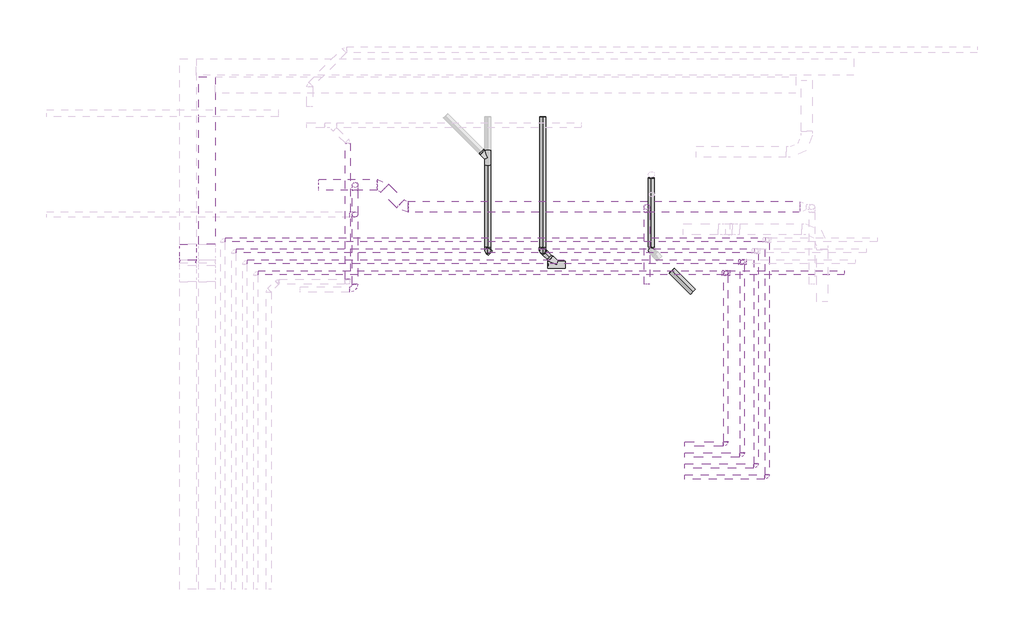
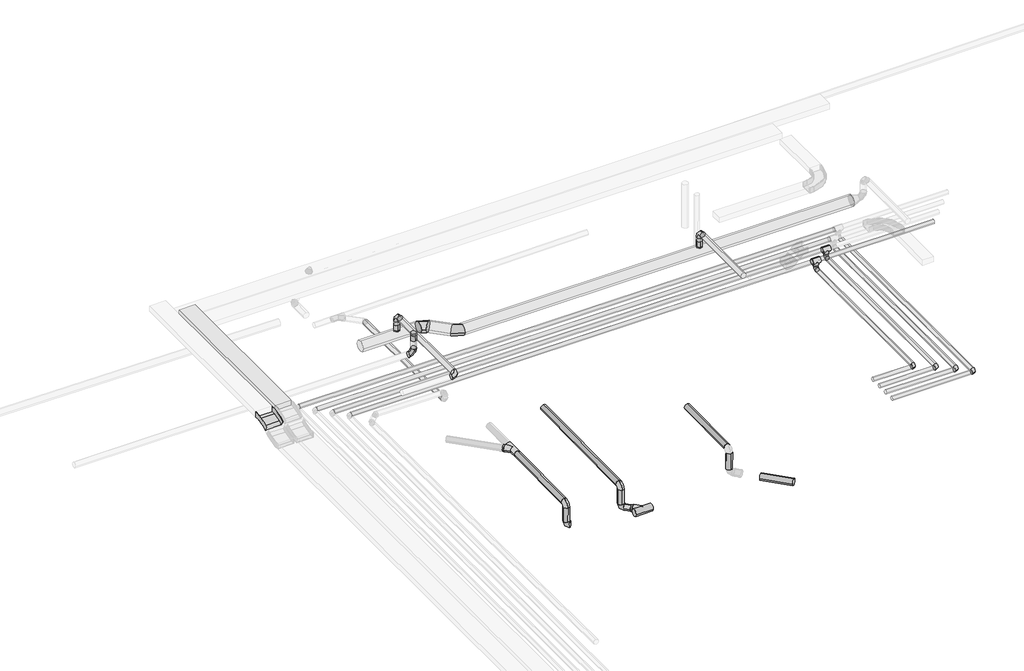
# One storey, part 4 of 5: 24 pipe segments, 16 pipe fittings, 9 duct fittings, 8 duct segments, 1 cable carrier fitting, 1 cable carrier segment.
"""IFC4 building model written with IfcOpenShell, lengths in millimetres."""

from ifc_helpers import new_model, si_unit, point, frame, frame_2d, origin, place, context, project, spatial, polyline, circle_curve, trimmed, segment, composite_curve, outline, extrude, transform, mapped, element, save
from components import m_codo_vertical_exterior_de_canal_el_c4dc7364, ext_600b08cb, ext_088e3dfa, ext_2c048923, m_codo_redondo_ext_1_d_85067ab4, m_codo_redondo_ext_1_d_d62552e0, pipe_fitting_3a68447e, pipe_fitting_37054e91, pipe_fitting_293e509b, pipe_fitting_2ef3bc07, pipe_fitting_64523cdd, pipe_fitting_2b84622b, pipe_fitting_de9ed0ee, pipe_fitting_65ddb89c, pipe_fitting_dc1c2671, t_soldadura_a_enchufe_ff252817

model = new_model("IFC4")

# Units and contexts
model_context = context("Model", 3, world=origin())
ifc_project = project(units=[si_unit("LENGTHUNIT", "METRE", prefix="MILLI")], contexts=[model_context])

# Site, building, storey
site = spatial("IfcSite", under=ifc_project)
building = spatial("IfcBuilding", under=site)
storey = spatial("IfcBuildingStorey", under=building, Name="Nivell 01 P01_PP", Elevation=11160.0)

# Cable carrier fitting
placement = place(None, origin())
m_codo_vertical_exterior_de_canal_el_shape = m_codo_vertical_exterior_de_canal_el_c4dc7364(model_context)
element("IfcCableCarrierFitting", 1, ObjectType="M_Codo vertical exterior de canal : EL", at=placement, inside=storey, context=model_context, shape_type="MappedRepresentation", body=[
    mapped(m_codo_vertical_exterior_de_canal_el_shape, transform((5008.2381883, 6149.6159499, 14460.0), x_axis=(0.0, -1.0, 0.0), y_axis=(0.0, 0.0, -1.0), z_axis=(1.0, 0.0, 0.0))),
])

# Cable carrier segment
element("IfcCableCarrierSegment", 2, ObjectType="EL", at=placement, inside=storey, context=model_context, shape_type="SweptSolid", body=[
    extrude(outline(polyline([(5207.0671065, 9356.732053), (5507.0671065, 9356.732053), (5507.0671065, 6318.3981673), (5207.0671065, 6318.3981673), (5207.0671065, 9356.732053)])), frame((0.0, 0.0, 14410.0), z_axis=(0.0, 0.0, 1.0), x_axis=(1.0, 0.0, 0.0)), (0.0, 0.0, 1.0), 100.0),
])

# Duct fittings
ext_shape = ext_600b08cb(model_context)
element("IfcDuctFitting", 3, ObjectType="M_Toma de derivación redonda : EXT", at=placement, inside=storey, context=model_context, shape_type="MappedRepresentation", body=[
    mapped(ext_shape, transform((13350.5896993, 6992.2199701, 14340.0), x_axis=(0.0, 0.0, 1.0), y_axis=(1.0, 0.0, 0.0), z_axis=(0.0, 1.0, 0.0))),
])
ext_2_shape = ext_088e3dfa(model_context)
element("IfcDuctFitting", 4, ObjectType="M_Toma de derivación redonda : EXT", at=placement, inside=storey, context=model_context, shape_type="MappedRepresentation", body=[
    mapped(ext_2_shape, transform((8050.5896993, 6856.5337216, 14560.0), x_axis=(0.0, 0.0, -1.0), y_axis=(0.0, -1.0, 0.0), z_axis=(-1.0, 0.0, 0.0))),
])
ext_3_shape = ext_2c048923(model_context)
element("IfcDuctFitting", 5, ObjectType="M_Toma de derivación redonda : EXT", at=placement, inside=storey, context=model_context, shape_type="MappedRepresentation", body=[
    mapped(ext_3_shape, transform((8050.5896993, 7392.2199701, 14340.0), x_axis=(0.0, 0.0, 1.0), y_axis=(1.0, 0.0, 0.0), z_axis=(0.0, 1.0, 0.0))),
])
m_codo_redondo_ext_1_d_shape = m_codo_redondo_ext_1_d_85067ab4(model_context)
element("IfcDuctFitting", 6, ObjectType="M_Codo redondo : EXT_1 D", at=placement, inside=storey, context=model_context, shape_type="MappedRepresentation", body=[
    mapped(m_codo_redondo_ext_1_d_shape, transform((8050.5896993, 5490.7319202, 14610.0), x_axis=(1.0, 0.0, 0.0), y_axis=(0.0, 1.0, 0.0), z_axis=(0.0, 0.0, 1.0))),
])
element("IfcDuctFitting", 7, ObjectType="M_Codo redondo : EXT_1 D", at=placement, inside=storey, context=model_context, shape_type="MappedRepresentation", body=[
    mapped(m_codo_redondo_ext_1_d_shape, transform((13350.5896993, 6992.2199701, 14610.0), x_axis=(0.0, 1.0, 0.0), y_axis=(0.0, 0.0, -1.0), z_axis=(-1.0, 0.0, 0.0))),
])
element("IfcDuctFitting", 8, ObjectType="M_Codo redondo : EXT_1 D", at=placement, inside=storey, context=model_context, shape_type="MappedRepresentation", body=[
    mapped(m_codo_redondo_ext_1_d_shape, transform((8050.5896993, 6856.5337216, 14210.0), x_axis=(0.0, 0.0, -1.0), y_axis=(-1.0, 0.0, 0.0), z_axis=(0.0, 1.0, 0.0))),
])
element("IfcDuctFitting", 9, ObjectType="M_Codo redondo : EXT_1 D", at=placement, inside=storey, context=model_context, shape_type="MappedRepresentation", body=[
    mapped(m_codo_redondo_ext_1_d_shape, transform((8050.5896993, 7392.2199701, 14610.0), x_axis=(0.0, 1.0, 0.0), y_axis=(0.0, 0.0, -1.0), z_axis=(-1.0, 0.0, 0.0))),
])
m_codo_redondo_ext_1_d_2_shape = m_codo_redondo_ext_1_d_d62552e0(model_context)
element("IfcDuctFitting", 10, ObjectType="M_Codo redondo : EXT_1 D", at=placement, inside=storey, context=model_context, shape_type="MappedRepresentation", body=[
    mapped(m_codo_redondo_ext_1_d_2_shape, transform((8930.5896993, 6992.2199701, 14240.0), x_axis=(0.7071067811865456, -0.7071067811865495, 0.0), y_axis=(0.7071067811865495, 0.7071067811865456, 0.0), z_axis=(0.0, 0.0, 1.0))),
])
element("IfcDuctFitting", 11, ObjectType="M_Codo redondo : EXT_1 D", at=placement, inside=storey, context=model_context, shape_type="MappedRepresentation", body=[
    mapped(m_codo_redondo_ext_1_d_2_shape, transform((8530.5878282, 7392.2218412, 14240.0), x_axis=(-0.7071067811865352, 0.7071067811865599, 0.0), y_axis=(-0.7071067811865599, -0.7071067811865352, 0.0), z_axis=(0.0, 0.0, 1.0))),
])

# Duct segments
element("IfcDuctSegment", 12, ObjectType="EXT_Acer Galvanitzat - Rígid", at=placement, inside=storey, context=model_context, shape_type="SweptSolid", body=[
    extrude(outline(composite_curve([segment(trimmed(circle_curve(frame_2d((6992.2199701, 14240.0)), 100.0), [point((7092.2199701, 14240.0))], [point((6992.2199701, 14140.0))], False, "CARTESIAN"), True, "CONTINUOUS"), segment(trimmed(circle_curve(frame_2d((6992.2199701, 14240.0)), 100.0), [point((6992.2199701, 14140.0))], [point((6892.2199701, 14240.0))], False, "CARTESIAN"), True, "CONTINUOUS"), segment(trimmed(circle_curve(frame_2d((6992.2199701, 14240.0)), 100.0), [point((6892.2199701, 14240.0))], [point((6992.2199701, 14340.0))], False, "CARTESIAN"), True, "CONTINUOUS"), segment(trimmed(circle_curve(frame_2d((6992.2199701, 14240.0)), 100.0), [point((6992.2199701, 14340.0))], [point((7092.2199701, 14240.0))], False, "CARTESIAN"), True, "CONTINUOUS")], self_intersect=False)), frame((9013.4324117, 0.0, 0.0), z_axis=(1.0, 0.0, 0.0), x_axis=(0.0, 1.0, 0.0)), (0.0, 0.0, 1.0), 7116.4466094),
])
element("IfcDuctSegment", 13, ObjectType="EXT_Acer Galvanitzat - Rígid", at=placement, inside=storey, context=model_context, shape_type="SweptSolid", body=[
    extrude(outline(composite_curve([segment(trimmed(circle_curve(frame_2d((14610.0, 8050.5896993)), 50.0), [point((14610.0, 8000.5896993))], [point((14560.0, 8050.5896993))], False, "CARTESIAN"), True, "CONTINUOUS"), segment(trimmed(circle_curve(frame_2d((14610.0, 8050.5896993)), 50.0), [point((14560.0, 8050.5896993))], [point((14610.0, 8100.5896993))], False, "CARTESIAN"), True, "CONTINUOUS"), segment(trimmed(circle_curve(frame_2d((14610.0, 8050.5896993)), 50.0), [point((14610.0, 8100.5896993))], [point((14660.0, 8050.5896993))], False, "CARTESIAN"), True, "CONTINUOUS"), segment(trimmed(circle_curve(frame_2d((14610.0, 8050.5896993)), 50.0), [point((14660.0, 8050.5896993))], [point((14610.0, 8000.5896993))], False, "CARTESIAN"), True, "CONTINUOUS")], self_intersect=False)), frame((0.0, 5590.7319202, 0.0), z_axis=(0.0, 1.0, 0.0), x_axis=(0.0, 0.0, 1.0)), (0.0, 0.0, 1.0), 1701.48805),
])
element("IfcDuctSegment", 14, ObjectType="EXT_Acer Galvanitzat - Rígid", at=placement, inside=storey, context=model_context, shape_type="SweptSolid", body=[
    extrude(outline(composite_curve([segment(trimmed(circle_curve(frame_2d((8050.5896993, 7392.2199701)), 50.0), [point((8000.5896993, 7392.2199701))], [point((8050.5896993, 7442.2199701))], False, "CARTESIAN"), True, "CONTINUOUS"), segment(trimmed(circle_curve(frame_2d((8050.5896993, 7392.2199701)), 50.0), [point((8050.5896993, 7442.2199701))], [point((8100.5896993, 7392.2199701))], False, "CARTESIAN"), True, "CONTINUOUS"), segment(trimmed(circle_curve(frame_2d((8050.5896993, 7392.2199701)), 50.0), [point((8100.5896993, 7392.2199701))], [point((8050.5896993, 7342.2199701))], False, "CARTESIAN"), True, "CONTINUOUS"), segment(trimmed(circle_curve(frame_2d((8050.5896993, 7392.2199701)), 50.0), [point((8050.5896993, 7342.2199701))], [point((8000.5896993, 7392.2199701))], False, "CARTESIAN"), True, "CONTINUOUS")], self_intersect=False)), frame((0.0, 0.0, 14441.6), z_axis=(0.0, 0.0, 1.0), x_axis=(1.0, 0.0, 0.0)), (0.0, 0.0, 1.0), 68.4),
])
element("IfcDuctSegment", 15, ObjectType="EXT_Acer Galvanitzat - Rígid", at=placement, inside=storey, context=model_context, shape_type="SweptSolid", body=[
    extrude(outline(composite_curve([segment(trimmed(circle_curve(frame_2d((14610.0, 13350.5896993)), 50.0), [point((14610.0, 13300.5896993))], [point((14560.0, 13350.5896993))], False, "CARTESIAN"), True, "CONTINUOUS"), segment(trimmed(circle_curve(frame_2d((14610.0, 13350.5896993)), 50.0), [point((14560.0, 13350.5896993))], [point((14610.0, 13400.5896993))], False, "CARTESIAN"), True, "CONTINUOUS"), segment(trimmed(circle_curve(frame_2d((14610.0, 13350.5896993)), 50.0), [point((14610.0, 13400.5896993))], [point((14660.0, 13350.5896993))], False, "CARTESIAN"), True, "CONTINUOUS"), segment(trimmed(circle_curve(frame_2d((14610.0, 13350.5896993)), 50.0), [point((14660.0, 13350.5896993))], [point((14610.0, 13300.5896993))], False, "CARTESIAN"), True, "CONTINUOUS")], self_intersect=False)), frame((0.0, 5590.7319202, 0.0), z_axis=(0.0, 1.0, 0.0), x_axis=(0.0, 0.0, 1.0)), (0.0, 0.0, 1.0), 1301.48805),
])
element("IfcDuctSegment", 16, ObjectType="EXT_Acer Galvanitzat - Rígid", at=placement, inside=storey, context=model_context, shape_type="SweptSolid", body=[
    extrude(outline(composite_curve([segment(trimmed(circle_curve(frame_2d((13350.5896993, 6992.2199701)), 50.0), [point((13300.5896993, 6992.2199701))], [point((13350.5896993, 7042.2199701))], False, "CARTESIAN"), True, "CONTINUOUS"), segment(trimmed(circle_curve(frame_2d((13350.5896993, 6992.2199701)), 50.0), [point((13350.5896993, 7042.2199701))], [point((13400.5896993, 6992.2199701))], False, "CARTESIAN"), True, "CONTINUOUS"), segment(trimmed(circle_curve(frame_2d((13350.5896993, 6992.2199701)), 50.0), [point((13400.5896993, 6992.2199701))], [point((13350.5896993, 6942.2199701))], False, "CARTESIAN"), True, "CONTINUOUS"), segment(trimmed(circle_curve(frame_2d((13350.5896993, 6992.2199701)), 50.0), [point((13350.5896993, 6942.2199701))], [point((13300.5896993, 6992.2199701))], False, "CARTESIAN"), True, "CONTINUOUS")], self_intersect=False)), frame((0.0, 0.0, 14441.6), z_axis=(0.0, 0.0, 1.0), x_axis=(1.0, 0.0, 0.0)), (0.0, 0.0, 1.0), 68.4),
])
element("IfcDuctSegment", 17, ObjectType="EXT_Acer Galvanitzat - Rígid", at=placement, inside=storey, context=model_context, shape_type="SweptSolid", body=[
    extrude(outline(composite_curve([segment(trimmed(circle_curve(frame_2d((8050.5896993, 6856.5337216)), 50.0), [point((8050.5896993, 6906.5337216))], [point((8100.5896993, 6856.5337216))], False, "CARTESIAN"), True, "CONTINUOUS"), segment(trimmed(circle_curve(frame_2d((8050.5896993, 6856.5337216)), 50.0), [point((8100.5896993, 6856.5337216))], [point((8050.5896993, 6806.5337216))], False, "CARTESIAN"), True, "CONTINUOUS"), segment(trimmed(circle_curve(frame_2d((8050.5896993, 6856.5337216)), 50.0), [point((8050.5896993, 6806.5337216))], [point((8000.5896993, 6856.5337216))], False, "CARTESIAN"), True, "CONTINUOUS"), segment(trimmed(circle_curve(frame_2d((8050.5896993, 6856.5337216)), 50.0), [point((8000.5896993, 6856.5337216))], [point((8050.5896993, 6906.5337216))], False, "CARTESIAN"), True, "CONTINUOUS")], self_intersect=False)), frame((0.0, 0.0, 14310.0), z_axis=(0.0, 0.0, 1.0), x_axis=(1.0, 0.0, 0.0)), (0.0, 0.0, 1.0), 148.4),
])
element("IfcDuctSegment", 18, ObjectType="EXT_Acer Galvanitzat - Rígid", at=placement, inside=storey, context=model_context, shape_type="SweptSolid", body=[
    extrude(outline(composite_curve([segment(trimmed(circle_curve(frame_2d((0.0, 100.0)), 100.0), [point((100.0, 100.0))], [point((0.0, 0.0))], False, "CARTESIAN"), True, "CONTINUOUS"), segment(trimmed(circle_curve(frame_2d((0.0, 100.0)), 100.0), [point((0.0, 0.0))], [point((-100.0, 100.0))], False, "CARTESIAN"), True, "CONTINUOUS"), segment(trimmed(circle_curve(frame_2d((0.0, 100.0)), 100.0), [point((-100.0, 100.0))], [point((0.0, 200.0))], False, "CARTESIAN"), True, "CONTINUOUS"), segment(trimmed(circle_curve(frame_2d((0.0, 100.0)), 100.0), [point((0.0, 200.0))], [point((100.0, 100.0))], False, "CARTESIAN"), True, "CONTINUOUS")], self_intersect=False)), frame((8872.0110555, 7050.7986139, 14340.0), z_axis=(-0.7071067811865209, 0.7071067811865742, 0.0), x_axis=(0.7071067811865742, 0.7071067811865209, 0.0)), (0.0, 0.0, 1.0), 400.0026461),
])
element("IfcDuctSegment", 19, ObjectType="EXT_Acer Galvanitzat - Rígid", at=placement, inside=storey, context=model_context, shape_type="SweptSolid", body=[
    extrude(outline(composite_curve([segment(trimmed(circle_curve(frame_2d((7392.2218412, 14240.0)), 100.0), [point((7492.2218412, 14240.0))], [point((7392.2218412, 14140.0))], False, "CARTESIAN"), True, "CONTINUOUS"), segment(trimmed(circle_curve(frame_2d((7392.2218412, 14240.0)), 100.0), [point((7392.2218412, 14140.0))], [point((7292.2218412, 14240.0))], False, "CARTESIAN"), True, "CONTINUOUS"), segment(trimmed(circle_curve(frame_2d((7392.2218412, 14240.0)), 100.0), [point((7292.2218412, 14240.0))], [point((7392.2218412, 14340.0))], False, "CARTESIAN"), True, "CONTINUOUS"), segment(trimmed(circle_curve(frame_2d((7392.2218412, 14240.0)), 100.0), [point((7392.2218412, 14340.0))], [point((7492.2218412, 14240.0))], False, "CARTESIAN"), True, "CONTINUOUS")], self_intersect=False)), frame((7390.5878282, 0.0, 0.0), z_axis=(1.0, 0.0, 0.0), x_axis=(0.0, 1.0, 0.0)), (0.0, 0.0, 1.0), 1057.1572875),
])

# Pipe fittings
pipe_fitting_shape = pipe_fitting_3a68447e(model_context)
element("IfcPipeFitting", 20, ObjectType="M_Codo - Genérico : Estándar", at=placement, inside=storey, context=model_context, shape_type="MappedRepresentation", body=[
    mapped(pipe_fitting_shape, transform((14787.4352568, 2683.4063617, 14122.5), x_axis=(1.0, 0.0, 0.0), y_axis=(0.0, 1.0, 0.0), z_axis=(0.0, 0.0, 1.0))),
])
element("IfcPipeFitting", 21, ObjectType="M_Codo - Genérico : Estándar", at=placement, inside=storey, context=model_context, shape_type="MappedRepresentation", body=[
    mapped(pipe_fitting_shape, transform((14787.4352568, 5794.2427547, 14122.5), x_axis=(0.0, 0.0, -1.0), y_axis=(0.0, -1.0, 0.0), z_axis=(-1.0, 0.0, 0.0))),
])
element("IfcPipeFitting", 22, ObjectType="M_Codo - Genérico : Estándar", at=placement, inside=storey, context=model_context, shape_type="MappedRepresentation", body=[
    mapped(pipe_fitting_shape, transform((15087.4352568, 2483.4063617, 14122.5), x_axis=(1.0, 0.0, 0.0), y_axis=(0.0, 1.0, 0.0), z_axis=(0.0, 0.0, 1.0))),
])
element("IfcPipeFitting", 23, ObjectType="M_Codo - Genérico : Estándar", at=placement, inside=storey, context=model_context, shape_type="MappedRepresentation", body=[
    mapped(pipe_fitting_shape, transform((15087.4352568, 5994.2427547, 14122.5), x_axis=(0.0, 0.0, -1.0), y_axis=(0.0, -1.0, 0.0), z_axis=(-1.0, 0.0, 0.0))),
])
element("IfcPipeFitting", 24, ObjectType="M_Codo - Genérico : Estándar", at=placement, inside=storey, context=model_context, shape_type="MappedRepresentation", body=[
    mapped(pipe_fitting_shape, transform((15337.4352568, 2283.4063617, 14122.5), x_axis=(1.0, 0.0, 0.0), y_axis=(0.0, 1.0, 0.0), z_axis=(0.0, 0.0, 1.0))),
])
element("IfcPipeFitting", 25, ObjectType="M_Codo - Genérico : Estándar", at=placement, inside=storey, context=model_context, shape_type="MappedRepresentation", body=[
    mapped(pipe_fitting_shape, transform((15537.4352568, 2083.4063617, 14122.5), x_axis=(1.0, 0.0, 0.0), y_axis=(0.0, 1.0, 0.0), z_axis=(0.0, 0.0, 1.0))),
])
pipe_fitting_2_shape = pipe_fitting_37054e91(model_context)
element("IfcPipeFitting", 26, ObjectType="M_Te - Genérica : Estándar", at=placement, inside=storey, context=model_context, shape_type="MappedRepresentation", body=[
    mapped(pipe_fitting_2_shape, transform((10459.4890412, 7885.7038445, 10873.385448), x_axis=(-9.57467658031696e-07, 0.9999500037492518, 0.009999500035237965), y_axis=(0.9999914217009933, 4.237577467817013e-05, -0.004141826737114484), z_axis=(-0.004142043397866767, 0.009999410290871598, -0.9999414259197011))),
])
pipe_fitting_3_shape = pipe_fitting_293e509b(model_context)
element("IfcPipeFitting", 27, ObjectType="M_Transición - Genérica : Estándar", at=placement, inside=storey, context=model_context, shape_type="MappedRepresentation", body=[
    mapped(pipe_fitting_3_shape, transform((10362.8881771, 7982.2998791, 10874.7515564), x_axis=(-0.7070891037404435, 0.7070537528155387, 0.009999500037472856), y_axis=(-0.7071123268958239, -0.7070891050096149, -0.004141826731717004), z_axis=(0.004142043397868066, -0.009999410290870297, 0.9999414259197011))),
])
pipe_fitting_4_shape = pipe_fitting_2ef3bc07(model_context)
element("IfcPipeFitting", 28, ObjectType="M_Codo - Genérico : Estándar", at=placement, inside=storey, context=model_context, shape_type="MappedRepresentation", body=[
    mapped(pipe_fitting_4_shape, transform((10460.2257434, 6197.7885944, 10856.5130819), x_axis=(0.0, -0.0035358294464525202, 0.999993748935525), y_axis=(0.0, 0.999993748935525, 0.0035358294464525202), z_axis=(-1.0, 0.0, 0.0))),
])
pipe_fitting_5_shape = pipe_fitting_64523cdd(model_context)
element("IfcPipeFitting", 29, ObjectType="M_Codo - Genérico : Estándar", at=placement, inside=storey, context=model_context, shape_type="MappedRepresentation", body=[
    mapped(pipe_fitting_5_shape, transform((11455.7686374, 6197.4896386, 10856.5104269), x_axis=(0.0, -0.003895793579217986, 0.9999924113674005), y_axis=(-5.677039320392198e-07, 0.9999924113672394, 0.0038957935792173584), z_axis=(-0.9999999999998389, -5.676996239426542e-07, -2.211657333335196e-09))),
])
pipe_fitting_6_shape = pipe_fitting_2b84622b(model_context)
element("IfcPipeFitting", 30, ObjectType="M_Te - Genérica : Estándar", at=placement, inside=storey, context=model_context, shape_type="MappedRepresentation", body=[
    mapped(pipe_fitting_6_shape, transform((11711.0189005, 5943.5468548, 10444.4026156), x_axis=(-0.9999469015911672, -1.7765221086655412e-05, 0.010305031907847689), y_axis=(-2.176693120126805e-05, -0.9999926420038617, -0.003836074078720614), z_axis=(0.010305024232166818, -0.003836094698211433, 0.9999395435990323))),
])
pipe_fitting_7_shape = pipe_fitting_de9ed0ee(model_context)
element("IfcPipeFitting", 31, ObjectType="M_Codo - Genérico : Estándar", at=placement, inside=storey, context=model_context, shape_type="MappedRepresentation", body=[
    mapped(pipe_fitting_7_shape, transform((10460.2257434, 6199.1942292, 10458.9752486), x_axis=(0.0, 0.0035358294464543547, -0.9999937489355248), y_axis=(0.7071089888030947, -0.707100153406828, -0.0025002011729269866), z_axis=(-0.707104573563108, -0.7071045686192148, -0.0025002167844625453))),
])
pipe_fitting_8_shape = pipe_fitting_65ddb89c(model_context)
element("IfcPipeFitting", 32, ObjectType="M_Transición - Genérica : Estándar", at=placement, inside=storey, context=model_context, shape_type="MappedRepresentation", body=[
    mapped(pipe_fitting_8_shape, transform((11599.9025291, 6054.6576708, 10445.9739992), x_axis=(-0.7070891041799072, 0.7070537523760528, 0.00999950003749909), y_axis=(-0.707049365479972, -0.707149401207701, 0.004573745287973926), z_axis=(0.010305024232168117, -0.0038360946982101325, 0.9999395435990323))),
])
pipe_fitting_9_shape = pipe_fitting_dc1c2671(model_context)
element("IfcPipeFitting", 33, ObjectType="M_Codo - Genérico : Estándar", at=placement, inside=storey, context=model_context, shape_type="MappedRepresentation", body=[
    mapped(pipe_fitting_9_shape, transform((11455.7686374, 6199.0771516, 10449.0193944), x_axis=(0.0, 0.0038957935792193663, -0.9999924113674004), y_axis=(0.7071076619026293, -0.707100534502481, -0.002754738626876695), z_axis=(-0.7071059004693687, -0.7071022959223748, -0.002754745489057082))),
])
t_soldadura_a_enchufe_shape = t_soldadura_a_enchufe_ff252817(model_context)
element("IfcPipeFitting", 34, ObjectType="T-Soldadura a enchufe : Estándar", at=placement, inside=storey, context=model_context, shape_type="MappedRepresentation", body=[
    mapped(t_soldadura_a_enchufe_shape, transform((14787.4352568, 5794.2427547, 14272.5), x_axis=(-1.0, 0.0, 0.0), y_axis=(0.0, 0.0, 1.0), z_axis=(0.0, 1.0, 0.0))),
])
element("IfcPipeFitting", 35, ObjectType="T-Soldadura a enchufe : Estándar", at=placement, inside=storey, context=model_context, shape_type="MappedRepresentation", body=[
    mapped(t_soldadura_a_enchufe_shape, transform((15087.4352568, 5994.2427547, 14272.5), x_axis=(-1.0, 0.0, 0.0), y_axis=(0.0, 0.0, 1.0), z_axis=(0.0, 1.0, 0.0))),
])

# Pipe segments
element("IfcPipeSegment", 36, ObjectType="PPR_CLI_Aquatherm Blue Pipe", at=placement, inside=storey, context=model_context, shape_type="SweptSolid", body=[
    extrude(outline(composite_curve([segment(trimmed(circle_curve(frame_2d((2683.4063617, 14122.5)), 37.5), [point((2645.9063617, 14122.5))], [point((2683.4063617, 14160.0))], False, "CARTESIAN"), True, "CONTINUOUS"), segment(trimmed(circle_curve(frame_2d((2683.4063617, 14122.5)), 37.5), [point((2683.4063617, 14160.0))], [point((2720.9063617, 14122.5))], False, "CARTESIAN"), True, "CONTINUOUS"), segment(trimmed(circle_curve(frame_2d((2683.4063617, 14122.5)), 37.5), [point((2720.9063617, 14122.5))], [point((2683.4063617, 14085.0))], False, "CARTESIAN"), True, "CONTINUOUS"), segment(trimmed(circle_curve(frame_2d((2683.4063617, 14122.5)), 37.5), [point((2683.4063617, 14085.0))], [point((2645.9063617, 14122.5))], False, "CARTESIAN"), True, "CONTINUOUS")], self_intersect=False)), frame((14037.4352568, 0.0, 0.0), z_axis=(1.0, 0.0, 0.0), x_axis=(0.0, 1.0, 0.0)), (0.0, 0.0, 1.0), 704.5625),
])
element("IfcPipeSegment", 37, ObjectType="PPR_CLI_Aquatherm Blue Pipe", at=placement, inside=storey, context=model_context, shape_type="SweptSolid", body=[
    extrude(outline(composite_curve([segment(trimmed(circle_curve(frame_2d((14122.5, 14787.4352568)), 37.5), [point((14122.5, 14824.9352568))], [point((14160.0, 14787.4352568))], False, "CARTESIAN"), True, "CONTINUOUS"), segment(trimmed(circle_curve(frame_2d((14122.5, 14787.4352568)), 37.5), [point((14160.0, 14787.4352568))], [point((14122.5, 14749.9352568))], False, "CARTESIAN"), True, "CONTINUOUS"), segment(trimmed(circle_curve(frame_2d((14122.5, 14787.4352568)), 37.5), [point((14122.5, 14749.9352568))], [point((14085.0, 14787.4352568))], False, "CARTESIAN"), True, "CONTINUOUS"), segment(trimmed(circle_curve(frame_2d((14122.5, 14787.4352568)), 37.5), [point((14085.0, 14787.4352568))], [point((14122.5, 14824.9352568))], False, "CARTESIAN"), True, "CONTINUOUS")], self_intersect=False)), frame((0.0, 2728.8438617, 0.0), z_axis=(0.0, 1.0, 0.0), x_axis=(0.0, 0.0, 1.0)), (0.0, 0.0, 1.0), 3019.9613931),
])
element("IfcPipeSegment", 38, ObjectType="PPR_CLI_Aquatherm Blue Pipe", at=placement, inside=storey, context=model_context, shape_type="SweptSolid", body=[
    extrude(outline(composite_curve([segment(trimmed(circle_curve(frame_2d((2483.4063617, 14122.5)), 37.5), [point((2445.9063617, 14122.5))], [point((2483.4063617, 14160.0))], False, "CARTESIAN"), True, "CONTINUOUS"), segment(trimmed(circle_curve(frame_2d((2483.4063617, 14122.5)), 37.5), [point((2483.4063617, 14160.0))], [point((2520.9063617, 14122.5))], False, "CARTESIAN"), True, "CONTINUOUS"), segment(trimmed(circle_curve(frame_2d((2483.4063617, 14122.5)), 37.5), [point((2520.9063617, 14122.5))], [point((2483.4063617, 14085.0))], False, "CARTESIAN"), True, "CONTINUOUS"), segment(trimmed(circle_curve(frame_2d((2483.4063617, 14122.5)), 37.5), [point((2483.4063617, 14085.0))], [point((2445.9063617, 14122.5))], False, "CARTESIAN"), True, "CONTINUOUS")], self_intersect=False)), frame((14037.4352568, 0.0, 0.0), z_axis=(1.0, 0.0, 0.0), x_axis=(0.0, 1.0, 0.0)), (0.0, 0.0, 1.0), 1004.5625),
])
element("IfcPipeSegment", 39, ObjectType="PPR_CLI_Aquatherm Blue Pipe", at=placement, inside=storey, context=model_context, shape_type="SweptSolid", body=[
    extrude(outline(composite_curve([segment(trimmed(circle_curve(frame_2d((14122.5, 15087.4352568)), 37.5), [point((14122.5, 15124.9352568))], [point((14160.0, 15087.4352568))], False, "CARTESIAN"), True, "CONTINUOUS"), segment(trimmed(circle_curve(frame_2d((14122.5, 15087.4352568)), 37.5), [point((14160.0, 15087.4352568))], [point((14122.5, 15049.9352568))], False, "CARTESIAN"), True, "CONTINUOUS"), segment(trimmed(circle_curve(frame_2d((14122.5, 15087.4352568)), 37.5), [point((14122.5, 15049.9352568))], [point((14085.0, 15087.4352568))], False, "CARTESIAN"), True, "CONTINUOUS"), segment(trimmed(circle_curve(frame_2d((14122.5, 15087.4352568)), 37.5), [point((14085.0, 15087.4352568))], [point((14122.5, 15124.9352568))], False, "CARTESIAN"), True, "CONTINUOUS")], self_intersect=False)), frame((0.0, 2528.8438617, 0.0), z_axis=(0.0, 1.0, 0.0), x_axis=(0.0, 0.0, 1.0)), (0.0, 0.0, 1.0), 3419.9613931),
])
element("IfcPipeSegment", 40, ObjectType="PPR_CLI_Aquatherm Blue Pipe", at=placement, inside=storey, context=model_context, shape_type="SweptSolid", body=[
    extrude(outline(composite_curve([segment(trimmed(circle_curve(frame_2d((2283.4063617, 14122.5)), 37.5), [point((2245.9063617, 14122.5))], [point((2283.4063617, 14160.0))], False, "CARTESIAN"), True, "CONTINUOUS"), segment(trimmed(circle_curve(frame_2d((2283.4063617, 14122.5)), 37.5), [point((2283.4063617, 14160.0))], [point((2320.9063617, 14122.5))], False, "CARTESIAN"), True, "CONTINUOUS"), segment(trimmed(circle_curve(frame_2d((2283.4063617, 14122.5)), 37.5), [point((2320.9063617, 14122.5))], [point((2283.4063617, 14085.0))], False, "CARTESIAN"), True, "CONTINUOUS"), segment(trimmed(circle_curve(frame_2d((2283.4063617, 14122.5)), 37.5), [point((2283.4063617, 14085.0))], [point((2245.9063617, 14122.5))], False, "CARTESIAN"), True, "CONTINUOUS")], self_intersect=False)), frame((14037.4352568, 0.0, 0.0), z_axis=(1.0, 0.0, 0.0), x_axis=(0.0, 1.0, 0.0)), (0.0, 0.0, 1.0), 1254.5625),
])
element("IfcPipeSegment", 41, ObjectType="PPR_CLI_Aquatherm Blue Pipe", at=placement, inside=storey, context=model_context, shape_type="SweptSolid", body=[
    extrude(outline(composite_curve([segment(trimmed(circle_curve(frame_2d((14122.5, 15337.4352568)), 37.5), [point((14122.5, 15374.9352568))], [point((14160.0, 15337.4352568))], False, "CARTESIAN"), True, "CONTINUOUS"), segment(trimmed(circle_curve(frame_2d((14122.5, 15337.4352568)), 37.5), [point((14160.0, 15337.4352568))], [point((14122.5, 15299.9352568))], False, "CARTESIAN"), True, "CONTINUOUS"), segment(trimmed(circle_curve(frame_2d((14122.5, 15337.4352568)), 37.5), [point((14122.5, 15299.9352568))], [point((14085.0, 15337.4352568))], False, "CARTESIAN"), True, "CONTINUOUS"), segment(trimmed(circle_curve(frame_2d((14122.5, 15337.4352568)), 37.5), [point((14085.0, 15337.4352568))], [point((14122.5, 15374.9352568))], False, "CARTESIAN"), True, "CONTINUOUS")], self_intersect=False)), frame((0.0, 2328.8438617, 0.0), z_axis=(0.0, 1.0, 0.0), x_axis=(0.0, 0.0, 1.0)), (0.0, 0.0, 1.0), 3819.9613931),
])
element("IfcPipeSegment", 42, ObjectType="PPR_CLI_Aquatherm Blue Pipe", at=placement, inside=storey, context=model_context, shape_type="SweptSolid", body=[
    extrude(outline(composite_curve([segment(trimmed(circle_curve(frame_2d((2083.4063617, 14122.5)), 37.5), [point((2045.9063617, 14122.5))], [point((2083.4063617, 14160.0))], False, "CARTESIAN"), True, "CONTINUOUS"), segment(trimmed(circle_curve(frame_2d((2083.4063617, 14122.5)), 37.5), [point((2083.4063617, 14160.0))], [point((2120.9063617, 14122.5))], False, "CARTESIAN"), True, "CONTINUOUS"), segment(trimmed(circle_curve(frame_2d((2083.4063617, 14122.5)), 37.5), [point((2120.9063617, 14122.5))], [point((2083.4063617, 14085.0))], False, "CARTESIAN"), True, "CONTINUOUS"), segment(trimmed(circle_curve(frame_2d((2083.4063617, 14122.5)), 37.5), [point((2083.4063617, 14085.0))], [point((2045.9063617, 14122.5))], False, "CARTESIAN"), True, "CONTINUOUS")], self_intersect=False)), frame((14037.4352568, 0.0, 0.0), z_axis=(1.0, 0.0, 0.0), x_axis=(0.0, 1.0, 0.0)), (0.0, 0.0, 1.0), 1454.5625),
])
element("IfcPipeSegment", 43, ObjectType="PPR_CLI_Aquatherm Blue Pipe", at=placement, inside=storey, context=model_context, shape_type="SweptSolid", body=[
    extrude(outline(composite_curve([segment(trimmed(circle_curve(frame_2d((14122.5, 15537.4352568)), 37.5), [point((14122.5, 15574.9352568))], [point((14160.0, 15537.4352568))], False, "CARTESIAN"), True, "CONTINUOUS"), segment(trimmed(circle_curve(frame_2d((14122.5, 15537.4352568)), 37.5), [point((14160.0, 15537.4352568))], [point((14122.5, 15499.9352568))], False, "CARTESIAN"), True, "CONTINUOUS"), segment(trimmed(circle_curve(frame_2d((14122.5, 15537.4352568)), 37.5), [point((14122.5, 15499.9352568))], [point((14085.0, 15537.4352568))], False, "CARTESIAN"), True, "CONTINUOUS"), segment(trimmed(circle_curve(frame_2d((14122.5, 15537.4352568)), 37.5), [point((14085.0, 15537.4352568))], [point((14122.5, 15574.9352568))], False, "CARTESIAN"), True, "CONTINUOUS")], self_intersect=False)), frame((0.0, 2128.8438617, 0.0), z_axis=(0.0, 1.0, 0.0), x_axis=(0.0, 0.0, 1.0)), (0.0, 0.0, 1.0), 4219.9613931),
])
element("IfcPipeSegment", 44, ObjectType="PPR_CLI_Aquatherm Blue Pipe", at=placement, inside=storey, context=model_context, shape_type="SweptSolid", body=[
    extrude(outline(composite_curve([segment(trimmed(circle_curve(frame_2d((5794.2427547, 14272.5)), 37.5), [point((5756.7427547, 14272.5))], [point((5794.2427547, 14310.0))], False, "CARTESIAN"), True, "CONTINUOUS"), segment(trimmed(circle_curve(frame_2d((5794.2427547, 14272.5)), 37.5), [point((5794.2427547, 14310.0))], [point((5831.7427547, 14272.5))], False, "CARTESIAN"), True, "CONTINUOUS"), segment(trimmed(circle_curve(frame_2d((5794.2427547, 14272.5)), 37.5), [point((5831.7427547, 14272.5))], [point((5794.2427547, 14235.0))], False, "CARTESIAN"), True, "CONTINUOUS"), segment(trimmed(circle_curve(frame_2d((5794.2427547, 14272.5)), 37.5), [point((5794.2427547, 14235.0))], [point((5756.7427547, 14272.5))], False, "CARTESIAN"), True, "CONTINUOUS")], self_intersect=False)), frame((14825.9352568, 0.0, 0.0), z_axis=(1.0, 0.0, 0.0), x_axis=(0.0, 1.0, 0.0)), (0.0, 0.0, 1.0), 2116.3840359),
])
element("IfcPipeSegment", 45, ObjectType="PPR_CLI_Aquatherm Blue Pipe", at=placement, inside=storey, context=model_context, shape_type="SweptSolid", body=[
    extrude(outline(composite_curve([segment(trimmed(circle_curve(frame_2d((14787.4352568, 5794.2427547)), 37.5), [point((14824.9352568, 5794.2427547))], [point((14787.4352568, 5756.7427547))], False, "CARTESIAN"), True, "CONTINUOUS"), segment(trimmed(circle_curve(frame_2d((14787.4352568, 5794.2427547)), 37.5), [point((14787.4352568, 5756.7427547))], [point((14749.9352568, 5794.2427547))], False, "CARTESIAN"), True, "CONTINUOUS"), segment(trimmed(circle_curve(frame_2d((14787.4352568, 5794.2427547)), 37.5), [point((14749.9352568, 5794.2427547))], [point((14787.4352568, 5831.7427547))], False, "CARTESIAN"), True, "CONTINUOUS"), segment(trimmed(circle_curve(frame_2d((14787.4352568, 5794.2427547)), 37.5), [point((14787.4352568, 5831.7427547))], [point((14824.9352568, 5794.2427547))], False, "CARTESIAN"), True, "CONTINUOUS")], self_intersect=False)), frame((0.0, 0.0, 14167.9375), z_axis=(0.0, 0.0, 1.0), x_axis=(1.0, 0.0, 0.0)), (0.0, 0.0, 1.0), 66.0625),
])
element("IfcPipeSegment", 46, ObjectType="PPR_CLI_Aquatherm Blue Pipe", at=placement, inside=storey, context=model_context, shape_type="SweptSolid", body=[
    extrude(outline(composite_curve([segment(trimmed(circle_curve(frame_2d((5794.2427547, 14272.5)), 37.5), [point((5756.7427547, 14272.5))], [point((5794.2427547, 14310.0))], False, "CARTESIAN"), True, "CONTINUOUS"), segment(trimmed(circle_curve(frame_2d((5794.2427547, 14272.5)), 37.5), [point((5794.2427547, 14310.0))], [point((5831.7427547, 14272.5))], False, "CARTESIAN"), True, "CONTINUOUS"), segment(trimmed(circle_curve(frame_2d((5794.2427547, 14272.5)), 37.5), [point((5831.7427547, 14272.5))], [point((5794.2427547, 14235.0))], False, "CARTESIAN"), True, "CONTINUOUS"), segment(trimmed(circle_curve(frame_2d((5794.2427547, 14272.5)), 37.5), [point((5794.2427547, 14235.0))], [point((5756.7427547, 14272.5))], False, "CARTESIAN"), True, "CONTINUOUS")], self_intersect=False)), frame((6291.1756883, 0.0, 0.0), z_axis=(1.0, 0.0, 0.0), x_axis=(0.0, 1.0, 0.0)), (0.0, 0.0, 1.0), 8457.7595685),
])
element("IfcPipeSegment", 47, ObjectType="PPR_CLI_Aquatherm Blue Pipe", at=placement, inside=storey, context=model_context, shape_type="SweptSolid", body=[
    extrude(outline(composite_curve([segment(trimmed(circle_curve(frame_2d((15087.4352568, 5994.2427547)), 37.5), [point((15124.9352568, 5994.2427547))], [point((15087.4352568, 5956.7427547))], False, "CARTESIAN"), True, "CONTINUOUS"), segment(trimmed(circle_curve(frame_2d((15087.4352568, 5994.2427547)), 37.5), [point((15087.4352568, 5956.7427547))], [point((15049.9352568, 5994.2427547))], False, "CARTESIAN"), True, "CONTINUOUS"), segment(trimmed(circle_curve(frame_2d((15087.4352568, 5994.2427547)), 37.5), [point((15049.9352568, 5994.2427547))], [point((15087.4352568, 6031.7427547))], False, "CARTESIAN"), True, "CONTINUOUS"), segment(trimmed(circle_curve(frame_2d((15087.4352568, 5994.2427547)), 37.5), [point((15087.4352568, 6031.7427547))], [point((15124.9352568, 5994.2427547))], False, "CARTESIAN"), True, "CONTINUOUS")], self_intersect=False)), frame((0.0, 0.0, 14167.9375), z_axis=(0.0, 0.0, 1.0), x_axis=(1.0, 0.0, 0.0)), (0.0, 0.0, 1.0), 66.0625),
])
element("IfcPipeSegment", 48, ObjectType="PPR_CLI_Aquatherm Blue Pipe", at=placement, inside=storey, context=model_context, shape_type="SweptSolid", body=[
    extrude(outline(composite_curve([segment(trimmed(circle_curve(frame_2d((5994.2427547, 14272.5)), 37.5), [point((5956.7427547, 14272.5))], [point((5994.2427547, 14310.0))], False, "CARTESIAN"), True, "CONTINUOUS"), segment(trimmed(circle_curve(frame_2d((5994.2427547, 14272.5)), 37.5), [point((5994.2427547, 14310.0))], [point((6031.7427547, 14272.5))], False, "CARTESIAN"), True, "CONTINUOUS"), segment(trimmed(circle_curve(frame_2d((5994.2427547, 14272.5)), 37.5), [point((6031.7427547, 14272.5))], [point((5994.2427547, 14235.0))], False, "CARTESIAN"), True, "CONTINUOUS"), segment(trimmed(circle_curve(frame_2d((5994.2427547, 14272.5)), 37.5), [point((5994.2427547, 14235.0))], [point((5956.7427547, 14272.5))], False, "CARTESIAN"), True, "CONTINUOUS")], self_intersect=False)), frame((6091.1756883, 0.0, 0.0), z_axis=(1.0, 0.0, 0.0), x_axis=(0.0, 1.0, 0.0)), (0.0, 0.0, 1.0), 8957.7595685),
])
element("IfcPipeSegment", 49, ObjectType="PPR_CLI_Aquatherm Blue Pipe", at=placement, inside=storey, context=model_context, shape_type="SweptSolid", body=[
    extrude(outline(composite_curve([segment(trimmed(circle_curve(frame_2d((6194.2427547, 14272.5)), 37.5), [point((6156.7427547, 14272.5))], [point((6194.2427547, 14310.0))], False, "CARTESIAN"), True, "CONTINUOUS"), segment(trimmed(circle_curve(frame_2d((6194.2427547, 14272.5)), 37.5), [point((6194.2427547, 14310.0))], [point((6231.7427547, 14272.5))], False, "CARTESIAN"), True, "CONTINUOUS"), segment(trimmed(circle_curve(frame_2d((6194.2427547, 14272.5)), 37.5), [point((6231.7427547, 14272.5))], [point((6194.2427547, 14235.0))], False, "CARTESIAN"), True, "CONTINUOUS"), segment(trimmed(circle_curve(frame_2d((6194.2427547, 14272.5)), 37.5), [point((6194.2427547, 14235.0))], [point((6156.7427547, 14272.5))], False, "CARTESIAN"), True, "CONTINUOUS")], self_intersect=False)), frame((5891.1756883, 0.0, 0.0), z_axis=(1.0, 0.0, 0.0), x_axis=(0.0, 1.0, 0.0)), (0.0, 0.0, 1.0), 9407.7595685),
])
element("IfcPipeSegment", 50, ObjectType="PPR_CLI_Aquatherm Blue Pipe", at=placement, inside=storey, context=model_context, shape_type="SweptSolid", body=[
    extrude(outline(composite_curve([segment(trimmed(circle_curve(frame_2d((6394.2427547, 14272.5)), 37.5), [point((6356.7427547, 14272.5))], [point((6394.2427547, 14310.0))], False, "CARTESIAN"), True, "CONTINUOUS"), segment(trimmed(circle_curve(frame_2d((6394.2427547, 14272.5)), 37.5), [point((6394.2427547, 14310.0))], [point((6431.7427547, 14272.5))], False, "CARTESIAN"), True, "CONTINUOUS"), segment(trimmed(circle_curve(frame_2d((6394.2427547, 14272.5)), 37.5), [point((6431.7427547, 14272.5))], [point((6394.2427547, 14235.0))], False, "CARTESIAN"), True, "CONTINUOUS"), segment(trimmed(circle_curve(frame_2d((6394.2427547, 14272.5)), 37.5), [point((6394.2427547, 14235.0))], [point((6356.7427547, 14272.5))], False, "CARTESIAN"), True, "CONTINUOUS")], self_intersect=False)), frame((5691.1756883, 0.0, 0.0), z_axis=(1.0, 0.0, 0.0), x_axis=(0.0, 1.0, 0.0)), (0.0, 0.0, 1.0), 9807.7595685),
])
element("IfcPipeSegment", 51, ObjectType="PVC_Baixant", at=placement, inside=storey, context=model_context, shape_type="SweptSolid", body=[
    extrude(outline(composite_curve([segment(trimmed(circle_curve(frame_2d((0.0, -55.0)), 55.0), [point((-55.0, -55.0))], [point((0.0, 0.0))], False, "CARTESIAN"), True, "CONTINUOUS"), segment(trimmed(circle_curve(frame_2d((0.0, -55.0)), 55.0), [point((0.0, 0.0))], [point((55.0, -55.0))], False, "CARTESIAN"), True, "CONTINUOUS"), segment(trimmed(circle_curve(frame_2d((0.0, -55.0)), 55.0), [point((55.0, -55.0))], [point((0.0, -110.0))], False, "CARTESIAN"), True, "CONTINUOUS"), segment(trimmed(circle_curve(frame_2d((0.0, -55.0)), 55.0), [point((0.0, -110.0))], [point((-55.0, -55.0))], False, "CARTESIAN"), True, "CONTINUOUS")], self_intersect=False)), frame((13434.8502044, 6261.0630484, 10813.2998836), z_axis=(0.0, 0.9999500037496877, 0.009999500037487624), x_axis=(1.0, 0.0, 0.0)), (0.0, 0.0, 1.0), 1258.4625331),
])
element("IfcPipeSegment", 52, ObjectType="PVC_Baixant", at=placement, inside=storey, context=model_context, shape_type="SweptSolid", body=[
    extrude(outline(composite_curve([segment(trimmed(circle_curve(frame_2d((0.0, -45.0)), 45.0), [point((45.0, -45.0))], [point((0.0, -90.0))], False, "CARTESIAN"), True, "CONTINUOUS"), segment(trimmed(circle_curve(frame_2d((0.0, -45.0)), 45.0), [point((0.0, -90.0))], [point((-45.0, -45.0))], False, "CARTESIAN"), True, "CONTINUOUS"), segment(trimmed(circle_curve(frame_2d((0.0, -45.0)), 45.0), [point((-45.0, -45.0))], [point((0.0, 0.0))], False, "CARTESIAN"), True, "CONTINUOUS"), segment(trimmed(circle_curve(frame_2d((0.0, -45.0)), 45.0), [point((0.0, 0.0))], [point((45.0, -45.0))], False, "CARTESIAN"), True, "CONTINUOUS")], self_intersect=False)), frame((7914.0627734, 8149.643758, 14109.8159182), z_axis=(0.0, -0.9999500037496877, 0.009999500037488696), x_axis=(1.0, 0.0, 0.0)), (0.0, 0.0, 1.0), 2466.6785619),
])
element("IfcPipeSegment", 53, ObjectType="PVC_Baixant", at=placement, inside=storey, context=model_context, shape_type="SweptSolid", body=[
    extrude(outline(composite_curve([segment(trimmed(circle_curve(frame_2d((0.0, -55.0)), 55.0), [point((-55.0, -55.0))], [point((0.0, 0.0))], False, "CARTESIAN"), True, "CONTINUOUS"), segment(trimmed(circle_curve(frame_2d((0.0, -55.0)), 55.0), [point((0.0, 0.0))], [point((55.0, -55.0))], False, "CARTESIAN"), True, "CONTINUOUS"), segment(trimmed(circle_curve(frame_2d((0.0, -55.0)), 55.0), [point((55.0, -55.0))], [point((0.0, -110.0))], False, "CARTESIAN"), True, "CONTINUOUS"), segment(trimmed(circle_curve(frame_2d((0.0, -55.0)), 55.0), [point((0.0, -110.0))], [point((-55.0, -55.0))], False, "CARTESIAN"), True, "CONTINUOUS")], self_intersect=False)), frame((11455.7686019, 6260.5909894, 10802.1386905), z_axis=(0.0, 0.9999500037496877, 0.009999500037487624), x_axis=(1.0, 0.0, 0.0)), (0.0, 0.0, 1.0), 2374.937063),
])
element("IfcPipeSegment", 54, ObjectType="PVC_Baixant", at=placement, inside=storey, context=model_context, shape_type="SweptSolid", body=[
    extrude(outline(composite_curve([segment(trimmed(circle_curve(frame_2d((0.0, -55.0)), 55.0), [point((-55.0, -55.0000005))], [point((-5e-07, 0.0))], False, "CARTESIAN"), True, "CONTINUOUS"), segment(trimmed(circle_curve(frame_2d((0.0, -55.0)), 55.0), [point((-5e-07, 0.0))], [point((55.0, -54.9999995))], False, "CARTESIAN"), True, "CONTINUOUS"), segment(trimmed(circle_curve(frame_2d((0.0, -55.0)), 55.0), [point((55.0, -54.9999995))], [point((5e-07, -110.0))], False, "CARTESIAN"), True, "CONTINUOUS"), segment(trimmed(circle_curve(frame_2d((0.0, -55.0)), 55.0), [point((5e-07, -110.0))], [point((-55.0, -55.0000005))], False, "CARTESIAN"), True, "CONTINUOUS")], self_intersect=False)), frame((10460.2257434, 6260.8674324, 10802.1411204), z_axis=(-9.574676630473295e-07, 0.9999500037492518, 0.009999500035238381), x_axis=(0.9999999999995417, 9.574197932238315e-07, 9.574200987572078e-09)), (0.0, 0.0, 1.0), 1488.8499171),
])
element("IfcPipeSegment", 55, ObjectType="PVC_Baixant", at=placement, inside=storey, context=model_context, shape_type="SweptSolid", body=[
    extrude(outline(composite_curve([segment(trimmed(circle_curve(frame_2d((0.0, -55.0)), 55.0), [point((55.0, -55.0))], [point((0.0, -110.0))], False, "CARTESIAN"), True, "CONTINUOUS"), segment(trimmed(circle_curve(frame_2d((0.0, -55.0)), 55.0), [point((0.0, -110.0))], [point((-55.0, -55.0))], False, "CARTESIAN"), True, "CONTINUOUS"), segment(trimmed(circle_curve(frame_2d((0.0, -55.0)), 55.0), [point((-55.0, -55.0))], [point((0.0, 0.0))], False, "CARTESIAN"), True, "CONTINUOUS"), segment(trimmed(circle_curve(frame_2d((0.0, -55.0)), 55.0), [point((0.0, 0.0))], [point((55.0, -55.0))], False, "CARTESIAN"), True, "CONTINUOUS")], self_intersect=False)), frame((10460.2257434, 6253.9730118, 10521.6365909), z_axis=(0.0, -0.00353582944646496, 0.999993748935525), x_axis=(1.0, 0.0, 0.0)), (0.0, 0.0, 1.0), 272.5410644),
])
element("IfcPipeSegment", 56, ObjectType="PVC_Baixant", at=placement, inside=storey, context=model_context, shape_type="SweptSolid", body=[
    extrude(outline(composite_curve([segment(trimmed(circle_curve(frame_2d((0.0, -55.0)), 55.0), [point((55.0, -55.0))], [point((0.0, -109.9999999))], False, "CARTESIAN"), True, "CONTINUOUS"), segment(trimmed(circle_curve(frame_2d((0.0, -55.0)), 55.0), [point((0.0, -109.9999999))], [point((-55.0, -55.0))], False, "CARTESIAN"), True, "CONTINUOUS"), segment(trimmed(circle_curve(frame_2d((0.0, -55.0)), 55.0), [point((-55.0, -55.0))], [point((0.0, 0.0))], False, "CARTESIAN"), True, "CONTINUOUS"), segment(trimmed(circle_curve(frame_2d((0.0, -55.0)), 55.0), [point((0.0, 0.0))], [point((55.0, -55.0))], False, "CARTESIAN"), True, "CONTINUOUS")], self_intersect=False)), frame((11455.7686374, 6253.8333127, 10511.7163535), z_axis=(0.0, -0.0038957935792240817, 0.9999924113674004), x_axis=(1.0, 0.0, 0.0)), (0.0, 0.0, 1.0), 282.4564544),
])
element("IfcPipeSegment", 57, ObjectType="PVC_Baixant", at=placement, inside=storey, context=model_context, shape_type="SweptSolid", body=[
    extrude(outline(composite_curve([segment(trimmed(circle_curve(frame_2d((0.0, -55.0)), 55.0), [point((55.0, -55.0))], [point((0.0, -110.0))], False, "CARTESIAN"), True, "CONTINUOUS"), segment(trimmed(circle_curve(frame_2d((0.0, -55.0)), 55.0), [point((0.0, -110.0))], [point((-55.0, -55.0))], False, "CARTESIAN"), True, "CONTINUOUS"), segment(trimmed(circle_curve(frame_2d((0.0, -55.0)), 55.0), [point((-55.0, -55.0))], [point((0.0, 0.0))], False, "CARTESIAN"), True, "CONTINUOUS"), segment(trimmed(circle_curve(frame_2d((0.0, -55.0)), 55.0), [point((0.0, 0.0))], [point((55.0, -55.0))], False, "CARTESIAN"), True, "CONTINUOUS")], self_intersect=False)), frame((13434.8502044, 6254.3762849, 10490.3565911), z_axis=(0.0, -0.0037186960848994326, 0.9999930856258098), x_axis=(1.0, 0.0, 0.0)), (0.0, 0.0, 1.0), 314.97885),
])
element("IfcPipeSegment", 58, ObjectType="PVC_Baixant", at=placement, inside=storey, context=model_context, shape_type="SweptSolid", body=[
    extrude(outline(composite_curve([segment(trimmed(circle_curve(frame_2d((0.0, 55.0)), 55.0), [point((54.9972709, 55.5478869))], [point((0.5478869, 0.002729))], False, "CARTESIAN"), True, "CONTINUOUS"), segment(trimmed(circle_curve(frame_2d((0.0, 55.0)), 55.0), [point((0.5478869, 0.002729))], [point((-54.997271, 54.4521132))], False, "CARTESIAN"), True, "CONTINUOUS"), segment(trimmed(circle_curve(frame_2d((0.0, 55.0)), 55.0), [point((-54.997271, 54.4521132))], [point((-0.5478869, 109.997271))], False, "CARTESIAN"), True, "CONTINUOUS"), segment(trimmed(circle_curve(frame_2d((0.0, 55.0)), 55.0), [point((-0.5478869, 109.997271))], [point((54.9972709, 55.5478869))], False, "CARTESIAN"), True, "CONTINUOUS")], self_intersect=False)), frame((11576.8983041, 6076.8844606, 10502.2988561), z_axis=(-0.7057451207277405, 0.7083952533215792, 0.009999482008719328), x_axis=(0.7084658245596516, 0.7056748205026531, 0.009961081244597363)), (0.0, 0.0, 1.0), 109.0315745),
])
element("IfcPipeSegment", 59, ObjectType="PVC_Baixant", at=placement, inside=storey, context=model_context, shape_type="SweptSolid", body=[
    extrude(outline(composite_curve([segment(trimmed(circle_curve(frame_2d((0.0, -62.5)), 62.5), [point((-62.4968756, -63.1249375))], [point((-0.6249376, -0.0031245))], False, "CARTESIAN"), True, "CONTINUOUS"), segment(trimmed(circle_curve(frame_2d((0.0, -62.5)), 62.5), [point((-0.6249376, -0.0031245))], [point((62.4968755, -61.8750625))], False, "CARTESIAN"), True, "CONTINUOUS"), segment(trimmed(circle_curve(frame_2d((0.0, -62.5)), 62.5), [point((62.4968755, -61.8750625))], [point((0.6249374, -124.9968755))], False, "CARTESIAN"), True, "CONTINUOUS"), segment(trimmed(circle_curve(frame_2d((0.0, -62.5)), 62.5), [point((0.6249374, -124.9968755))], [point((-62.4968756, -63.1249375))], False, "CARTESIAN"), True, "CONTINUOUS")], self_intersect=False)), frame((14184.3539723, 5450.7421963, 10354.5819345), z_axis=(-0.7070714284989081, 0.7070714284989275, 0.009999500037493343), x_axis=(0.7071421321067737, 0.7070007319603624, 0.00999850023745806)), (0.0, 0.0, 1.0), 541.1138286),
])

save(model, "model.ifc")
